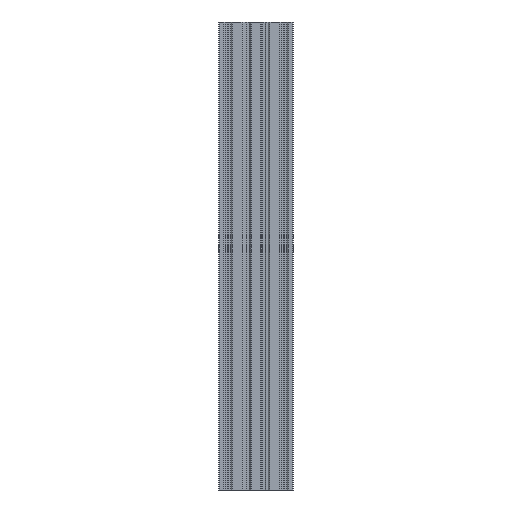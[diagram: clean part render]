
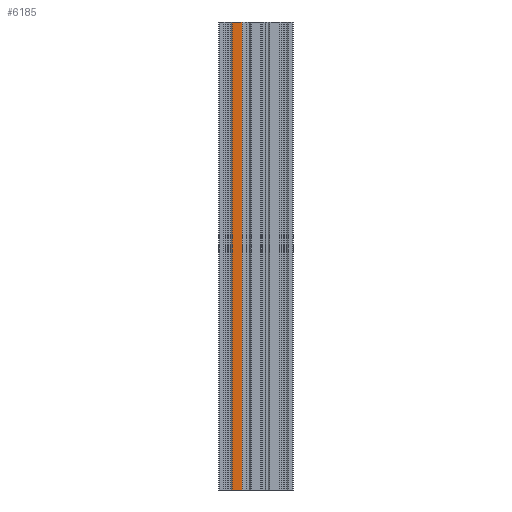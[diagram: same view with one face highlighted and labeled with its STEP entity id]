
A CAD part, front view. The second image highlights one B-rep face of the part: STEP entity #6185.
In plain terms, the highlighted planar face has unit normal (0, -1, 0).
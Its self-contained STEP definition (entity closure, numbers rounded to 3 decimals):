
#672 = ORIENTED_EDGE ( 'NONE', *, *, #7521, .T. ) ;
#683 = CARTESIAN_POINT ( 'NONE',  ( -25.171, -20., 500. ) ) ;
#1378 = CARTESIAN_POINT ( 'NONE',  ( -25.1, -20., 1000. ) ) ;
#1511 = ORIENTED_EDGE ( 'NONE', *, *, #12248, .F. ) ;
#2026 = EDGE_CURVE ( 'NONE', #2731, #8472, #9635, .T. ) ;
#2317 = EDGE_CURVE ( 'NONE', #2700, #2731, #3206, .T. ) ;
#2598 = DIRECTION ( 'NONE',  ( 1., 0., 0. ) ) ;
#2677 = DIRECTION ( 'NONE',  ( 0., 0., -1. ) ) ;
#2689 = CARTESIAN_POINT ( 'NONE',  ( -25.1, -20., 500. ) ) ;
#2700 = VERTEX_POINT ( 'NONE', #10441 ) ;
#2731 = VERTEX_POINT ( 'NONE', #12403 ) ;
#2858 = AXIS2_PLACEMENT_3D ( 'NONE', #1378, #8403, #10358 ) ;
#3206 = LINE ( 'NONE', #683, #6214 ) ;
#3911 = DIRECTION ( 'NONE',  ( 1., 0., 0. ) ) ;
#4387 = VERTEX_POINT ( 'NONE', #8913 ) ;
#4413 = FACE_OUTER_BOUND ( 'NONE', #10870, .T. ) ;
#4504 = LINE ( 'NONE', #4778, #9620 ) ;
#4778 = CARTESIAN_POINT ( 'NONE',  ( -14.9, -20., 1000. ) ) ;
#4951 = VECTOR ( 'NONE', #8786, 1000. ) ;
#5320 = CARTESIAN_POINT ( 'NONE',  ( -25.171, -20., 1000. ) ) ;
#5333 = ORIENTED_EDGE ( 'NONE', *, *, #2026, .T. ) ;
#5453 = LINE ( 'NONE', #5320, #6444 ) ;
#5482 = LINE ( 'NONE', #6786, #12950 ) ;
#5608 = DIRECTION ( 'NONE',  ( 1., 0., 0. ) ) ;
#6185 = ADVANCED_FACE ( 'NONE', ( #4413 ), #9125, .F. ) ;
#6214 = VECTOR ( 'NONE', #5608, 1000. ) ;
#6444 = VECTOR ( 'NONE', #9316, 1000. ) ;
#6535 = CARTESIAN_POINT ( 'NONE',  ( -14.9, -20., 1000. ) ) ;
#6786 = CARTESIAN_POINT ( 'NONE',  ( -25.1, -20., 1000. ) ) ;
#6842 = EDGE_CURVE ( 'NONE', #4387, #8886, #12623, .T. ) ;
#7521 = EDGE_CURVE ( 'NONE', #4387, #2700, #5453, .T. ) ;
#7561 = ORIENTED_EDGE ( 'NONE', *, *, #6842, .F. ) ;
#7584 = CARTESIAN_POINT ( 'NONE',  ( -25.171, -20., 1000. ) ) ;
#8403 = DIRECTION ( 'NONE',  ( 0., 1., 0. ) ) ;
#8463 = EDGE_CURVE ( 'NONE', #8886, #12189, #5482, .T. ) ;
#8472 = VERTEX_POINT ( 'NONE', #10778 ) ;
#8786 = DIRECTION ( 'NONE',  ( 1., 0., 0. ) ) ;
#8886 = VERTEX_POINT ( 'NONE', #11611 ) ;
#8913 = CARTESIAN_POINT ( 'NONE',  ( -25.171, -20., 1000. ) ) ;
#9125 = PLANE ( 'NONE',  #2858 ) ;
#9316 = DIRECTION ( 'NONE',  ( 0., 0., -1. ) ) ;
#9551 = VECTOR ( 'NONE', #2598, 1000. ) ;
#9619 = ORIENTED_EDGE ( 'NONE', *, *, #8463, .F. ) ;
#9620 = VECTOR ( 'NONE', #2677, 1000. ) ;
#9635 = LINE ( 'NONE', #2689, #4951 ) ;
#10263 = ORIENTED_EDGE ( 'NONE', *, *, #2317, .T. ) ;
#10358 = DIRECTION ( 'NONE',  ( -1., 0., 0. ) ) ;
#10441 = CARTESIAN_POINT ( 'NONE',  ( -25.171, -20., 500. ) ) ;
#10778 = CARTESIAN_POINT ( 'NONE',  ( -14.9, -20., 500. ) ) ;
#10870 = EDGE_LOOP ( 'NONE', ( #5333, #1511, #9619, #7561, #672, #10263 ) ) ;
#11611 = CARTESIAN_POINT ( 'NONE',  ( -25.1, -20., 1000. ) ) ;
#12189 = VERTEX_POINT ( 'NONE', #6535 ) ;
#12248 = EDGE_CURVE ( 'NONE', #12189, #8472, #4504, .T. ) ;
#12403 = CARTESIAN_POINT ( 'NONE',  ( -25.1, -20., 500. ) ) ;
#12623 = LINE ( 'NONE', #7584, #9551 ) ;
#12950 = VECTOR ( 'NONE', #3911, 1000. ) ;
